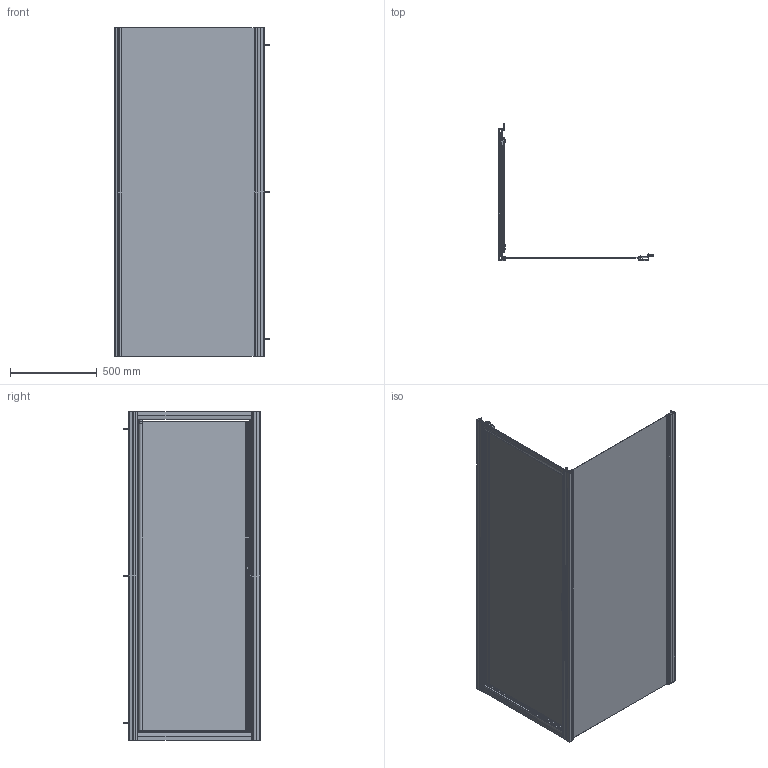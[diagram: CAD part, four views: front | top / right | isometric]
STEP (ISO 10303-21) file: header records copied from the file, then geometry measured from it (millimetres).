
FILE_DESCRIPTION(/* description */ ('VERTICALE SNODO'),/* implementation_level */ '2;1');
FILE_NAME(/* name */ 'C:\Users\benassi\Desktop\dwg 3D\America quattro 2019\America 4 battente+fissa 80x80.stp',/* time_stamp */ '2018-07-17T15:58:19+02:00',/* author */ ('benassi'),/* organization */ (''),/* preprocessor_version */ 'ST-DEVELOPER v16.1',/* originating_system */ 'Autodesk Inventor 2016',/* authorisation */ '');
FILE_SCHEMA (('AUTOMOTIVE_DESIGN { 1 0 10303 214 3 1 1 }'));
Products named in the file (33): 10000021283; 10000021282; ISO 7050 - ST 3,5 x 13 - C - Z; 10000021288; 10000021289; 10000021395; 10000011474; 10000021298; 10000013432; 10000013433; 10000013434; 10000021334; 10000021394; ISO 7049 - ST 3,5 x 16 - C - Z; 10000021285; 10000000295_IPT_000; 10000021336; 10000016783; 10000019036; 10000019034; ISO 7049 - ST 3,5 x 9,5 - F - H; 10000020335; 10000020374; 10000020373; 10000020375; ISO 7050 - ST 3,5 x 13 - C - H; 10000021335; 10000019154; 158038; 10000020289; 10000021654; 10000021378; 10000021284
Assembly tree (65 placements, depth 3):
  10000021284
    10000021283
    10000021282  x2
    ISO 7050 - ST 3,5 x 13 - C - Z  x2
    10000021288
    10000021289  x2
    10000021395
    10000011474
    10000021298  x2
    10000013434  x6
      10000013432
      10000013433
    10000021334
    10000021394
    ISO 7049 - ST 3,5 x 16 - C - Z  x4
    10000021285  x8
    10000000295_IPT_000
    10000021336
    10000016783
    10000019036
    10000019034
    ISO 7049 - ST 3,5 x 9,5 - F - H  x2
    10000020335
    10000020375
      10000020374
      10000020373
    ISO 7050 - ST 3,5 x 13 - C - H
    10000021335
    10000019154  x3
    10000013433  x6
    158038  x6
    10000020289
    10000021654
    10000021378
Bounding box: 895.02 x 790 x 1900.2 mm (x, y, z)
Volume: 13295399.8 mm3; surface area: 10129867.2 mm2
Topology: 68 solids, 70 shells, 3047 faces, 7879 edges, 5137 vertices
Faces by surface type: plane 1694, cylinder 669, cone 367, bspline 155, torus 113, sphere 49
Full cylindrical faces by diameter (mm): 3 x6, 3.5 x17, 3.6 x2, 3.7 x4, 3.9 x6, 4 x26, 4.2 x3, 4.5 x2, 5 x8, 6.2 x6, 6.3 x12, 7.3 x12, 7.6 x24, 8.2 x6, 9 x12, 10 x4, 11.5 x2, 19 x4
Entity records: 56459 total; most frequent: CARTESIAN_POINT 13070, ORIENTED_EDGE 8876, DIRECTION 8601, EDGE_CURVE 4438, AXIS2_PLACEMENT_3D 2999, VERTEX_POINT 2958, LINE 2603, VECTOR 2603
